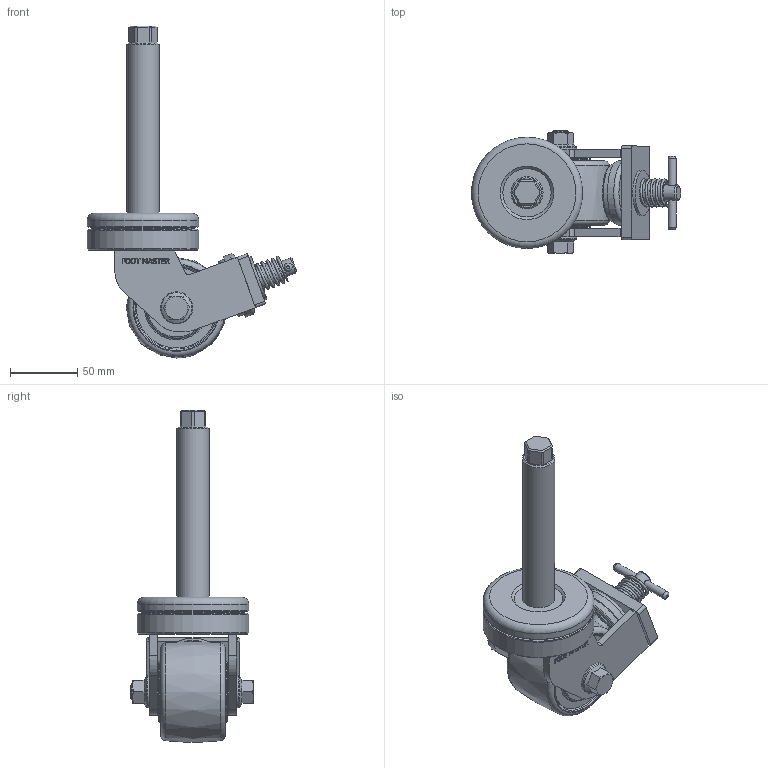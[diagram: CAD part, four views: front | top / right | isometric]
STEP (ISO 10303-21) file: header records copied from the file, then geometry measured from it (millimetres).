
FILE_DESCRIPTION(/* description */ (''),/* implementation_level */ '2;1');
FILE_NAME(/* name */ '\\192.168.10.38\지덕공유\1.기술연구소\1.도면\특주제품도면\9C1111-194_C-GXT-75-SS-NYD-M24x127L_20200217\GXT-75-BSS-M24x127L.stp',/* time_stamp */ '2023-09-05T08:33:40+09:00',/* author */ ('admin'),/* organization */ (''),/* preprocessor_version */ 'ST-DEVELOPER v18.1',/* originating_system */ 'Autodesk Inventor 2021',/* authorisation */ '');
FILE_SCHEMA (('AUTOMOTIVE_DESIGN { 1 0 10303 214 3 1 1 }'));
Length unit declared in the file: millimetre
Products named in the file (1): GXT-75-BSS-M24x127L
Bounding box: 156.07 x 91.5 x 247.58 mm (x, y, z)
Volume: 523954.9 mm3; surface area: 87056.4 mm2
Topology: 1 solids, 1 shells, 491 faces, 1226 edges, 803 vertices
Faces by surface type: plane 273, bspline 108, cylinder 48, cone 37, torus 25
Full cylindrical faces by diameter (mm): 4 x1, 6 x2, 8 x1, 8.2 x2, 8.4 x1, 12 x2, 12.2 x1, 16 x1, 17 x2, 19.4 x1, 21.5 x2, 24 x3, 24.9 x1, 30 x1, 34 x1, 34.9 x1, 35 x2, 44 x1, 48 x1, 76.2 x1, 83 x2
Entity records: 21933 total; most frequent: CARTESIAN_POINT 10742, ORIENTED_EDGE 2450, DIRECTION 1943, EDGE_CURVE 1225, VERTEX_POINT 803, LINE 753, VECTOR 753, AXIS2_PLACEMENT_3D 595
